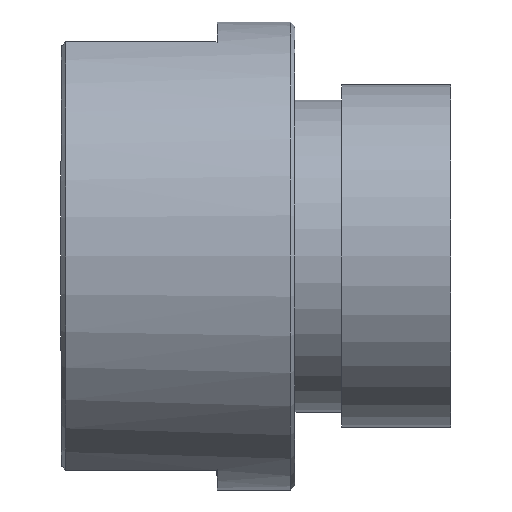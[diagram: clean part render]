
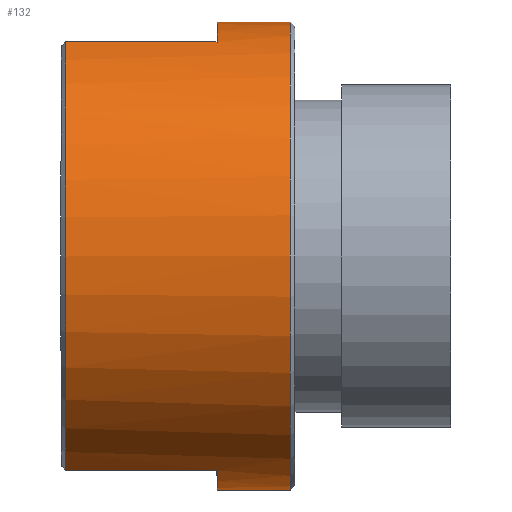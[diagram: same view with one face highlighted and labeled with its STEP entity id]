
A CAD part, left-side view. The second image highlights one B-rep face of the part: STEP entity #132.
In plain terms, the highlighted cylindrical face has radius 15 mm (diameter 30 mm), a partial arc.
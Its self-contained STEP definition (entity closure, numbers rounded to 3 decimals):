
#2 = VECTOR ( 'NONE', #914, 1000. ) ;
#24 = EDGE_CURVE ( 'NONE', #913, #988, #718, .T. ) ;
#42 = DIRECTION ( 'NONE',  ( -1., 0., 0. ) ) ;
#51 = DIRECTION ( 'NONE',  ( 0., 1., 0. ) ) ;
#52 = CARTESIAN_POINT ( 'NONE',  ( 0., 5., 0. ) ) ;
#60 = CARTESIAN_POINT ( 'NONE',  ( 0., 15., 15. ) ) ;
#76 = CARTESIAN_POINT ( 'NONE',  ( -6., 15., -13.748 ) ) ;
#115 = DIRECTION ( 'NONE',  ( 0., -1., 0. ) ) ;
#126 = EDGE_CURVE ( 'NONE', #827, #225, #824, .T. ) ;
#132 = ADVANCED_FACE ( 'NONE', ( #693 ), #193, .T. ) ;
#142 = CARTESIAN_POINT ( 'NONE',  ( 0., 5., 15. ) ) ;
#193 = CYLINDRICAL_SURFACE ( 'NONE', #839, 15. ) ;
#196 = LINE ( 'NONE', #472, #1007 ) ;
#204 = LINE ( 'NONE', #60, #2 ) ;
#225 = VERTEX_POINT ( 'NONE', #911 ) ;
#233 = EDGE_CURVE ( 'NONE', #491, #309, #204, .T. ) ;
#241 = DIRECTION ( 'NONE',  ( 0., -1., 0. ) ) ;
#263 = DIRECTION ( 'NONE',  ( 0., 0., -1. ) ) ;
#272 = CIRCLE ( 'NONE', #568, 15. ) ;
#274 = CIRCLE ( 'NONE', #699, 15. ) ;
#304 = VERTEX_POINT ( 'NONE', #445 ) ;
#309 = VERTEX_POINT ( 'NONE', #669 ) ;
#314 = CARTESIAN_POINT ( 'NONE',  ( 0., 5., -15. ) ) ;
#315 = ORIENTED_EDGE ( 'NONE', *, *, #662, .T. ) ;
#319 = DIRECTION ( 'NONE',  ( 0., -1., 0. ) ) ;
#321 = VECTOR ( 'NONE', #51, 1000. ) ;
#335 = CARTESIAN_POINT ( 'NONE',  ( 0., 5., 0. ) ) ;
#345 = AXIS2_PLACEMENT_3D ( 'NONE', #945, #241, #791 ) ;
#380 = CARTESIAN_POINT ( 'NONE',  ( 0., 0.3, 0. ) ) ;
#390 = ORIENTED_EDGE ( 'NONE', *, *, #233, .F. ) ;
#392 = EDGE_CURVE ( 'NONE', #225, #988, #925, .T. ) ;
#393 = AXIS2_PLACEMENT_3D ( 'NONE', #52, #899, #42 ) ;
#416 = EDGE_CURVE ( 'NONE', #304, #309, #272, .T. ) ;
#429 = ORIENTED_EDGE ( 'NONE', *, *, #24, .T. ) ;
#430 = CARTESIAN_POINT ( 'NONE',  ( 0., 15., 0. ) ) ;
#434 = ORIENTED_EDGE ( 'NONE', *, *, #831, .T. ) ;
#445 = CARTESIAN_POINT ( 'NONE',  ( 0., 0.3, -15. ) ) ;
#472 = CARTESIAN_POINT ( 'NONE',  ( 0., 15., -15. ) ) ;
#491 = VERTEX_POINT ( 'NONE', #142 ) ;
#495 = CARTESIAN_POINT ( 'NONE',  ( -6., 14.7, 13.748 ) ) ;
#537 = ORIENTED_EDGE ( 'NONE', *, *, #126, .F. ) ;
#568 = AXIS2_PLACEMENT_3D ( 'NONE', #380, #768, #771 ) ;
#632 = CARTESIAN_POINT ( 'NONE',  ( -6., 5., 13.748 ) ) ;
#662 = EDGE_CURVE ( 'NONE', #814, #913, #736, .T. ) ;
#669 = CARTESIAN_POINT ( 'NONE',  ( 0., 0.3, 15. ) ) ;
#679 = EDGE_LOOP ( 'NONE', ( #390, #434, #315, #429, #841, #537, #746, #691 ) ) ;
#691 = ORIENTED_EDGE ( 'NONE', *, *, #416, .T. ) ;
#693 = FACE_OUTER_BOUND ( 'NONE', #679, .T. ) ;
#699 = AXIS2_PLACEMENT_3D ( 'NONE', #335, #732, #263 ) ;
#718 = CIRCLE ( 'NONE', #345, 15. ) ;
#722 = VECTOR ( 'NONE', #764, 1000. ) ;
#732 = DIRECTION ( 'NONE',  ( 0., -1., 0. ) ) ;
#736 = LINE ( 'NONE', #979, #321 ) ;
#746 = ORIENTED_EDGE ( 'NONE', *, *, #753, .T. ) ;
#753 = EDGE_CURVE ( 'NONE', #827, #304, #196, .T. ) ;
#764 = DIRECTION ( 'NONE',  ( 0., 1., 0. ) ) ;
#768 = DIRECTION ( 'NONE',  ( 0., 1., 0. ) ) ;
#771 = DIRECTION ( 'NONE',  ( 0., 0., 1. ) ) ;
#791 = DIRECTION ( 'NONE',  ( 0., 0., 1. ) ) ;
#814 = VERTEX_POINT ( 'NONE', #632 ) ;
#816 = DIRECTION ( 'NONE',  ( 0., 0., -1. ) ) ;
#824 = CIRCLE ( 'NONE', #393, 15. ) ;
#827 = VERTEX_POINT ( 'NONE', #314 ) ;
#831 = EDGE_CURVE ( 'NONE', #491, #814, #274, .T. ) ;
#839 = AXIS2_PLACEMENT_3D ( 'NONE', #430, #115, #816 ) ;
#841 = ORIENTED_EDGE ( 'NONE', *, *, #392, .F. ) ;
#899 = DIRECTION ( 'NONE',  ( 0., 1., 0. ) ) ;
#911 = CARTESIAN_POINT ( 'NONE',  ( -6., 5., -13.748 ) ) ;
#913 = VERTEX_POINT ( 'NONE', #495 ) ;
#914 = DIRECTION ( 'NONE',  ( 0., -1., 0. ) ) ;
#925 = LINE ( 'NONE', #76, #722 ) ;
#945 = CARTESIAN_POINT ( 'NONE',  ( 0., 14.7, 0. ) ) ;
#979 = CARTESIAN_POINT ( 'NONE',  ( -6., 15., 13.748 ) ) ;
#988 = VERTEX_POINT ( 'NONE', #993 ) ;
#993 = CARTESIAN_POINT ( 'NONE',  ( -6., 14.7, -13.748 ) ) ;
#1007 = VECTOR ( 'NONE', #319, 1000. ) ;
